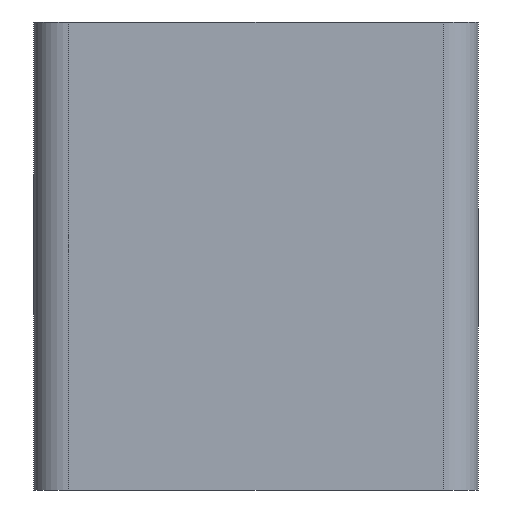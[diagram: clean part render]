
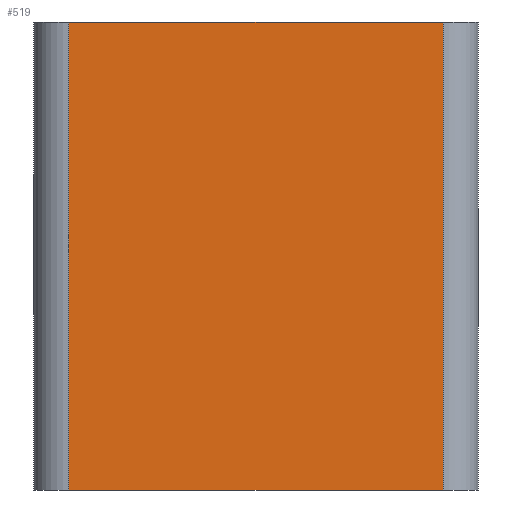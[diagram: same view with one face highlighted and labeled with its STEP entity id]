
A CAD part, front view. The second image highlights one B-rep face of the part: STEP entity #519.
In plain terms, the highlighted planar face has unit normal (0, -1, 0).
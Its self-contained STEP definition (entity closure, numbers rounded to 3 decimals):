
#131 = VERTEX_POINT('',#132);
#132 = CARTESIAN_POINT('',(-103.,-164.,56.));
#139 = EDGE_CURVE('',#131,#140,#142,.T.);
#140 = VERTEX_POINT('',#141);
#141 = CARTESIAN_POINT('',(-71.,-164.,56.));
#142 = LINE('',#143,#144);
#143 = CARTESIAN_POINT('',(-106.,-164.,56.));
#144 = VECTOR('',#145,1.);
#145 = DIRECTION('',(1.,0.,0.));
#231 = VERTEX_POINT('',#232);
#232 = CARTESIAN_POINT('',(-103.,-164.,16.));
#239 = EDGE_CURVE('',#231,#131,#240,.T.);
#240 = LINE('',#241,#242);
#241 = CARTESIAN_POINT('',(-103.,-164.,16.));
#242 = VECTOR('',#243,1.);
#243 = DIRECTION('',(0.,0.,1.));
#282 = EDGE_CURVE('',#231,#283,#285,.T.);
#283 = VERTEX_POINT('',#284);
#284 = CARTESIAN_POINT('',(-71.,-164.,16.));
#285 = LINE('',#286,#287);
#286 = CARTESIAN_POINT('',(-106.,-164.,16.));
#287 = VECTOR('',#288,1.);
#288 = DIRECTION('',(1.,0.,0.));
#519 = ADVANCED_FACE('',(#520),#531,.F.);
#520 = FACE_BOUND('',#521,.F.);
#521 = EDGE_LOOP('',(#522,#523,#524,#525));
#522 = ORIENTED_EDGE('',*,*,#282,.F.);
#523 = ORIENTED_EDGE('',*,*,#239,.T.);
#524 = ORIENTED_EDGE('',*,*,#139,.T.);
#525 = ORIENTED_EDGE('',*,*,#526,.F.);
#526 = EDGE_CURVE('',#283,#140,#527,.T.);
#527 = LINE('',#528,#529);
#528 = CARTESIAN_POINT('',(-71.,-164.,16.));
#529 = VECTOR('',#530,1.);
#530 = DIRECTION('',(0.,0.,1.));
#531 = PLANE('',#532);
#532 = AXIS2_PLACEMENT_3D('',#533,#534,#535);
#533 = CARTESIAN_POINT('',(-106.,-164.,16.));
#534 = DIRECTION('',(0.,1.,0.));
#535 = DIRECTION('',(0.,0.,1.));
